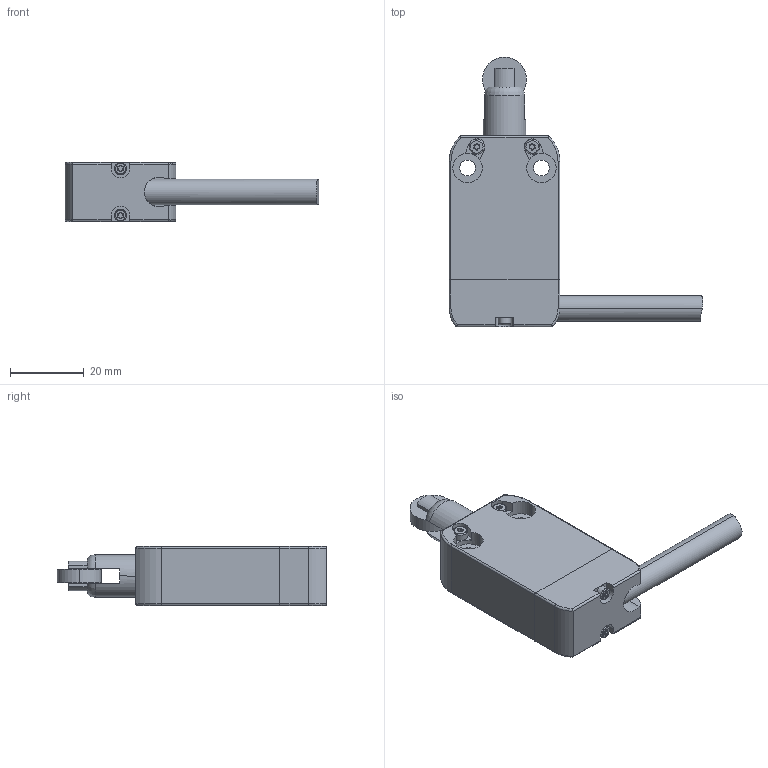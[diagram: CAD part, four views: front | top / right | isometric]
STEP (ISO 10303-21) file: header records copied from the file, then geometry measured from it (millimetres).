
FILE_DESCRIPTION (( 'STEP AP203' ), '1' );
FILE_NAME ('ZF_STEP_NF_xxx0BB-DNx.STEP', '2026-10-01T13:36:58', ( '' ), ( '' ), 'SwSTEP 2.0', 'SolidWorks 2023', '' );
FILE_SCHEMA (( 'CONFIG_CONTROL_DESIGN' ));
Length unit declared in the file: millimetre
Products named in the file (7): Pizzato_custodia_NA-NF_default; ZF_STEP_VN_CxxxDNx; ZF_STEP_NF_xxx0BB-DNx; ZF_STEP_VN_AA0BB; Pizzato_VN_AA0BB; Pizzato_VN_CxxxDNx_default; Pizzato_custodia_NA-NF
Assembly tree (6 placements, depth 3):
  ZF_STEP_NF_xxx0BB-DNx
    Pizzato_custodia_NA-NF
      Pizzato_custodia_NA-NF_default
    ZF_STEP_VN_AA0BB
      Pizzato_VN_AA0BB
    ZF_STEP_VN_CxxxDNx
      Pizzato_VN_CxxxDNx_default
Bounding box: 68.74 x 73 x 16 mm (x, y, z)
Volume: 25965.3 mm3; surface area: 10017.6 mm2
Topology: 3 solids, 3 shells, 507 faces, 1332 edges, 880 vertices
Faces by surface type: plane 253, cylinder 128, bspline 108, torus 18
Entity records: 20162 total; most frequent: CARTESIAN_POINT 7383, ORIENTED_EDGE 2664, DIRECTION 2203, EDGE_CURVE 1332, VERTEX_POINT 880, LINE 815, VECTOR 815, AXIS2_PLACEMENT_3D 694
